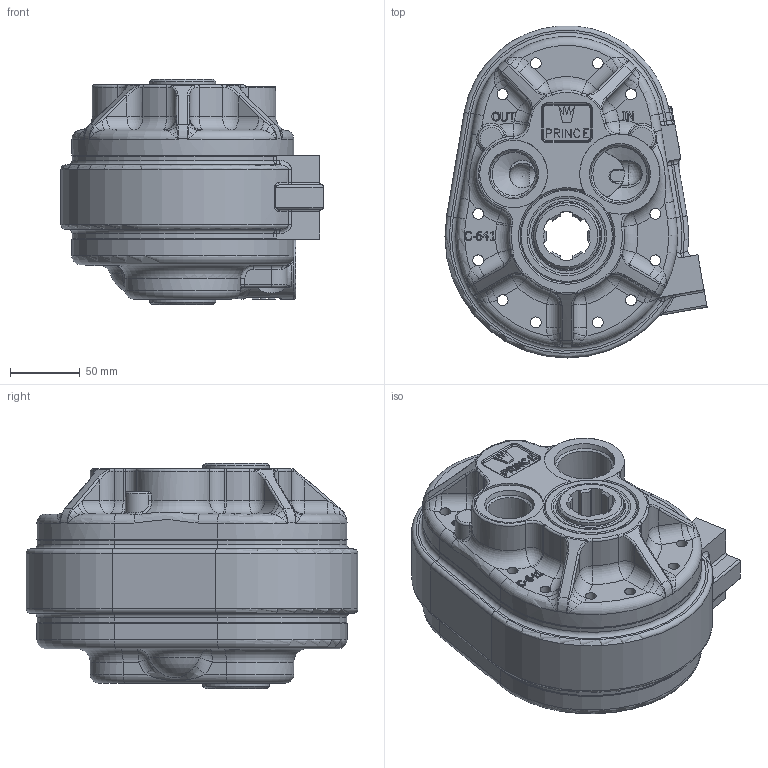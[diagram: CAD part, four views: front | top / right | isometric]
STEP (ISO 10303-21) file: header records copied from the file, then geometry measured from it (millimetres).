
FILE_DESCRIPTION(/* description */ (''),/* implementation_level */ '2;1');
FILE_NAME(/* name */ 'C:\Vault\Workspace\AssembliesPumps\HC-P_\HC-P-K26C.stp',/* time_stamp */ '2016-09-08T15:12:33-05:00',/* author */ ('otterbyj'),/* organization */ ('PRINCE MANUFACTURING'),/* preprocessor_version */ 'ST-DEVELOPER v16.1',/* originating_system */ 'Autodesk Inventor 2016',/* authorisation */ '0 in^3');
FILE_SCHEMA (('AUTOMOTIVE_DESIGN { 1 0 10303 214 3 1 1 }'));
Length unit declared in the file: inch
Products named in the file (6): 500101004; 500101015; 500103033; 500104018m; 240016026; HC-P-K26C
Assembly tree (6 placements, depth 2):
  HC-P-K26C
    500101004
    500101015
    500103033
    500104018m
    240016026  x2
Bounding box: 187.86 x 237.9 x 161.29 mm (x, y, z)
Volume: 2478753.7 mm3; surface area: 401854.7 mm2
Topology: 6 solids, 8 shells, 1255 faces, 3233 edges, 1971 vertices
Faces by surface type: plane 416, bspline 316, cylinder 277, torus 134, cone 80, sphere 32
Full cylindrical faces by diameter (mm): 7.798 x16, 9.545 x6, 10.319 x28, 16.256 x1, 19.05 x1, 20.574 x1, 23.8 x1, 30.963 x1, 37.033 x1, 38.887 x1, 41.255 x2, 42.926 x1, 47.582 x1, 48.514 x1, 53.184 x2, 61.04 x2, 61.89 x2, 64.77 x2, 66.599 x2, 66.802 x2
Entity records: 44393 total; most frequent: CARTESIAN_POINT 15820, ORIENTED_EDGE 5902, DIRECTION 5089, EDGE_CURVE 2951, AXIS2_PLACEMENT_3D 1894, VERTEX_POINT 1884, EDGE_LOOP 1485, LINE 1301
